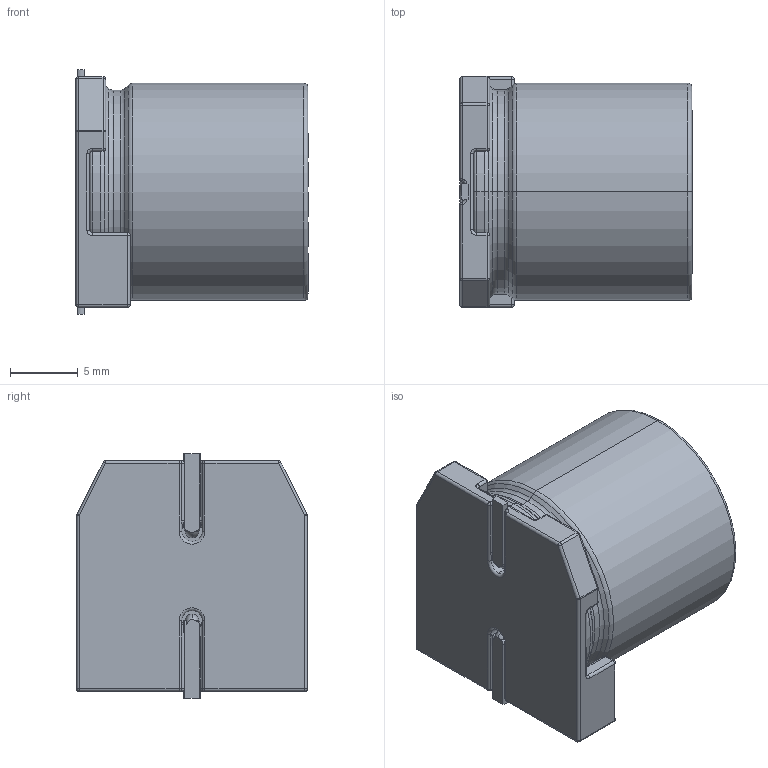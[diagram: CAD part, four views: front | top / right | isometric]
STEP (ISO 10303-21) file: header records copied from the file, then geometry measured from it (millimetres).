
FILE_DESCRIPTION((''),'2;1');
FILE_NAME('LIQUIDSMD16X17_ASM','2020-06-03T',('xy'),(''),'PRO/ENGINEER BY PARAMETRIC TECHNOLOGY CORPORATION, 2009380','PRO/ENGINEER BY PARAMETRIC TECHNOLOGY CORPORATION, 2009380','');
FILE_SCHEMA(('CONFIG_CONTROL_DESIGN'));
Length unit declared in the file: millimetre
Products named in the file (3): LIQUIDSMD16X17; ZB16; LIQUIDSMD16X17_ASM
Assembly tree (2 placements, depth 2):
  LIQUIDSMD16X17_ASM
    LIQUIDSMD16X17
    ZB16
Bounding box: 17.11 x 17 x 18 mm (x, y, z)
Volume: 3597.3 mm3; surface area: 2026.6 mm2
Topology: 2 solids, 2 shells, 361 faces, 873 edges, 528 vertices
Faces by surface type: plane 168, cylinder 95, torus 55, sphere 32, bspline 7, cone 4
Entity records: 10965 total; most frequent: CARTESIAN_POINT 2386, DIRECTION 1827, ORIENTED_EDGE 1746, EDGE_CURVE 873, AXIS2_PLACEMENT_3D 644, VECTOR 539, LINE 539, VERTEX_POINT 528
